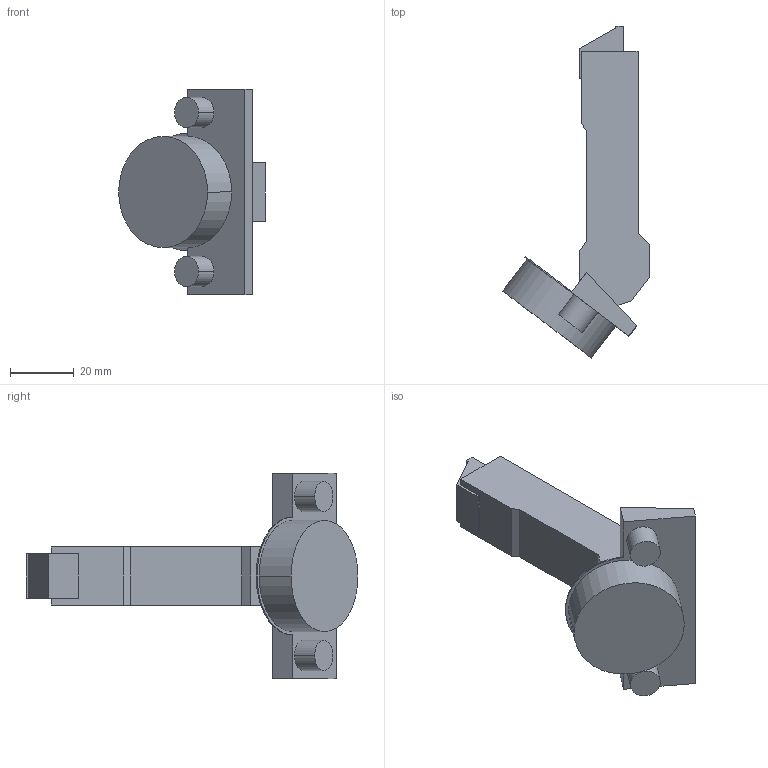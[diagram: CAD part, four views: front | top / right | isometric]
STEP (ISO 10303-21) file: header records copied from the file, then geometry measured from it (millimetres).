
FILE_DESCRIPTION (( 'STEP AP214' ), '1' );
FILE_NAME ('Scharnier TS Impresso 110°_+37° HS_BB, aufliegend.step', '2010-12-13T10:21:00', ( 'grass' ), ( '' ), 'SwSTEP 2.0', 'SolidWorks 2010', '' );
FILE_SCHEMA (( 'AUTOMOTIVE_DESIGN' ));
Length unit declared in the file: millimetre
Products named in the file (1): Scharnier TS Impresso 110°_+37° HS_BB, aufliegend
Bounding box: 46.13 x 104.41 x 64.5 mm (x, y, z)
Volume: 47704.2 mm3; surface area: 13076.4 mm2
Topology: 1 solids, 3 shells, 58 faces, 138 edges, 92 vertices
Faces by surface type: plane 41, cylinder 17
Entity records: 1706 total; most frequent: DIRECTION 290, CARTESIAN_POINT 289, ORIENTED_EDGE 276, EDGE_CURVE 138, LINE 104, VECTOR 104, AXIS2_PLACEMENT_3D 93, VERTEX_POINT 92
